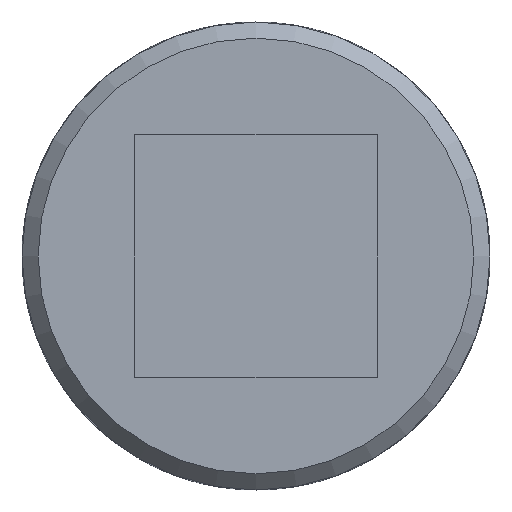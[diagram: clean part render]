
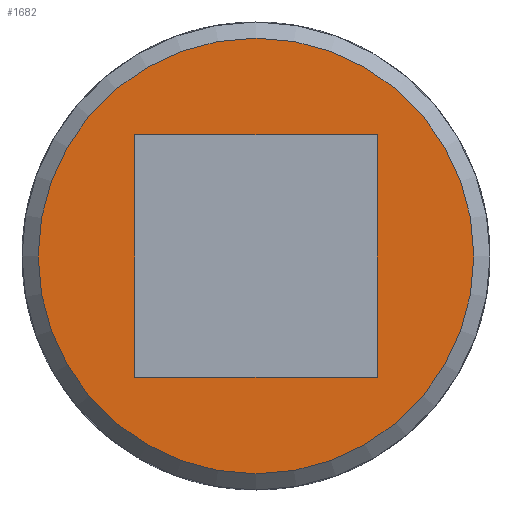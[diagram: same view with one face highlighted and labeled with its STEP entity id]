
A CAD part, front view. The second image highlights one B-rep face of the part: STEP entity #1682.
In plain terms, the highlighted planar face has unit normal (0, -1, 0).
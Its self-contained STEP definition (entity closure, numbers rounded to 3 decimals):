
#112=LINE('',#3176,#176);
#116=LINE('',#3199,#180);
#122=LINE('',#3237,#186);
#125=LINE('',#3257,#189);
#176=VECTOR('',#2169,30.);
#180=VECTOR('',#2177,30.);
#186=VECTOR('',#2185,30.);
#189=VECTOR('',#2192,30.);
#240=PLANE('',#1848);
#383=FACE_BOUND('',#608,.T.);
#469=FACE_OUTER_BOUND('',#607,.T.);
#607=EDGE_LOOP('',(#1467));
#608=EDGE_LOOP('',(#1468,#1469,#1470,#1471));
#696=CIRCLE('',#1846,27.);
#823=VERTEX_POINT('',#3173);
#824=VERTEX_POINT('',#3175);
#830=VERTEX_POINT('',#3198);
#839=VERTEX_POINT('',#3235);
#846=VERTEX_POINT('',#3302);
#1029=EDGE_CURVE('',#824,#823,#112,.T.);
#1036=EDGE_CURVE('',#830,#824,#116,.T.);
#1046=EDGE_CURVE('',#823,#839,#122,.T.);
#1052=EDGE_CURVE('',#839,#830,#125,.T.);
#1063=EDGE_CURVE('',#846,#846,#696,.T.);
#1467=ORIENTED_EDGE('',*,*,#1063,.F.);
#1468=ORIENTED_EDGE('',*,*,#1029,.T.);
#1469=ORIENTED_EDGE('',*,*,#1046,.T.);
#1470=ORIENTED_EDGE('',*,*,#1052,.T.);
#1471=ORIENTED_EDGE('',*,*,#1036,.T.);
#1682=ADVANCED_FACE('',(#469,#383),#240,.F.);
#1846=AXIS2_PLACEMENT_3D('',#3303,#2221,#2222);
#1848=AXIS2_PLACEMENT_3D('',#3511,#2229,#2230);
#2169=DIRECTION('',(0.,0.,-1.));
#2177=DIRECTION('',(1.,0.,0.));
#2185=DIRECTION('',(-1.,0.,0.));
#2192=DIRECTION('',(0.,0.,1.));
#2221=DIRECTION('center_axis',(0.,1.,0.));
#2222=DIRECTION('ref_axis',(1.,0.,0.));
#2229=DIRECTION('center_axis',(0.,1.,0.));
#2230=DIRECTION('ref_axis',(0.,0.,1.));
#3173=CARTESIAN_POINT('',(15.,-79.5,-15.));
#3175=CARTESIAN_POINT('',(15.,-79.5,15.));
#3176=CARTESIAN_POINT('',(15.,-79.5,7.5));
#3198=CARTESIAN_POINT('',(-15.,-79.5,15.));
#3199=CARTESIAN_POINT('',(-7.5,-79.5,15.));
#3235=CARTESIAN_POINT('',(-15.,-79.5,-15.));
#3237=CARTESIAN_POINT('',(7.5,-79.5,-15.));
#3257=CARTESIAN_POINT('',(-15.,-79.5,-7.5));
#3302=CARTESIAN_POINT('',(-27.,-79.5,0.));
#3303=CARTESIAN_POINT('Origin',(0.,-79.5,0.));
#3511=CARTESIAN_POINT('Origin',(0.,-79.5,0.));
